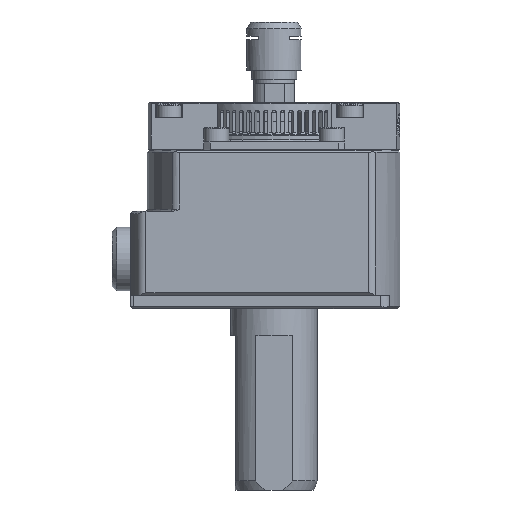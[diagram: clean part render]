
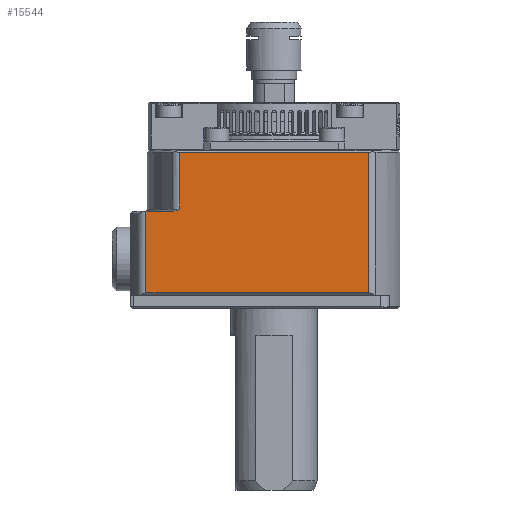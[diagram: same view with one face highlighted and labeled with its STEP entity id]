
A CAD part, left-side view. The second image highlights one B-rep face of the part: STEP entity #15544.
In plain terms, the highlighted planar face has unit normal (-1, 0, 0).
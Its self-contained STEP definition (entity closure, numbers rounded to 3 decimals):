
#181 = CARTESIAN_POINT ( 'NONE',  ( -17.5, 21.639, 21.652 ) ) ;
#241 = EDGE_CURVE ( 'NONE', #33682, #25629, #23568, .T. ) ;
#571 = CARTESIAN_POINT ( 'NONE',  ( -17.5, 21.381, 21.757 ) ) ;
#1149 = LINE ( 'NONE', #10102, #13655 ) ;
#1262 = CARTESIAN_POINT ( 'NONE',  ( -17.5, 20.875, 22. ) ) ;
#2270 = ORIENTED_EDGE ( 'NONE', *, *, #241, .F. ) ;
#2333 = DIRECTION ( 'NONE',  ( 0., 0., -1. ) ) ;
#2729 = LINE ( 'NONE', #6011, #3950 ) ;
#3503 = CARTESIAN_POINT ( 'NONE',  ( -17.5, 21.35, 21.771 ) ) ;
#3540 = PLANE ( 'NONE',  #28565 ) ;
#3950 = VECTOR ( 'NONE', #14581, 1000. ) ;
#6011 = CARTESIAN_POINT ( 'NONE',  ( -17.5, 13.875, 21.5 ) ) ;
#6403 = CARTESIAN_POINT ( 'NONE',  ( -17.5, 21.612, 21.662 ) ) ;
#6593 = CARTESIAN_POINT ( 'NONE',  ( -17.5, 21.316, 21.786 ) ) ;
#7973 = CARTESIAN_POINT ( 'NONE',  ( -17.5, -20.875, 35. ) ) ;
#8942 = VECTOR ( 'NONE', #18116, 1000. ) ;
#8975 = EDGE_CURVE ( 'NONE', #27154, #11685, #25695, .T. ) ;
#9093 = ORIENTED_EDGE ( 'NONE', *, *, #34186, .T. ) ;
#9507 = CARTESIAN_POINT ( 'NONE',  ( -17.5, 21.944, 21.556 ) ) ;
#9697 = CARTESIAN_POINT ( 'NONE',  ( -17.5, 20.875, 22. ) ) ;
#10102 = CARTESIAN_POINT ( 'NONE',  ( -17.5, 13.875, 3.5 ) ) ;
#10373 = CARTESIAN_POINT ( 'NONE',  ( -17.5, 28.281, 21.5 ) ) ;
#10943 = CARTESIAN_POINT ( 'NONE',  ( -17.5, 20.875, 34.5 ) ) ;
#11685 = VERTEX_POINT ( 'NONE', #10373 ) ;
#12050 = CARTESIAN_POINT ( 'NONE',  ( -17.5, 21.622, 21.658 ) ) ;
#12101 = ORIENTED_EDGE ( 'NONE', *, *, #27121, .F. ) ;
#13655 = VECTOR ( 'NONE', #22009, 1000. ) ;
#13834 = CARTESIAN_POINT ( 'NONE',  ( -17.5, 22.375, 21.5 ) ) ;
#14581 = DIRECTION ( 'NONE',  ( 0., 1., 0. ) ) ;
#14780 = CARTESIAN_POINT ( 'NONE',  ( -17.5, 21.877, 21.574 ) ) ;
#15366 = CARTESIAN_POINT ( 'NONE',  ( -17.5, 21.342, 21.774 ) ) ;
#15380 = CARTESIAN_POINT ( 'NONE',  ( -17.5, 20.875, 35. ) ) ;
#15408 = DIRECTION ( 'NONE',  ( 0., -1., 0. ) ) ;
#15482 = ORIENTED_EDGE ( 'NONE', *, *, #23975, .F. ) ;
#15544 = ADVANCED_FACE ( 'NONE', ( #23601 ), #3540, .F. ) ;
#15562 = CARTESIAN_POINT ( 'NONE',  ( -17.5, 21.402, 21.748 ) ) ;
#16827 = ORIENTED_EDGE ( 'NONE', *, *, #8975, .F. ) ;
#17597 = VERTEX_POINT ( 'NONE', #24482 ) ;
#18116 = DIRECTION ( 'NONE',  ( 0., -1., 0. ) ) ;
#18304 = CARTESIAN_POINT ( 'NONE',  ( -17.5, 22.261, 21.5 ) ) ;
#18347 = DIRECTION ( 'NONE',  ( 1., 0., 0. ) ) ;
#18363 = EDGE_CURVE ( 'NONE', #17597, #27154, #1149, .T. ) ;
#18476 = CARTESIAN_POINT ( 'NONE',  ( -17.5, -20.875, 34.5 ) ) ;
#18499 = CARTESIAN_POINT ( 'NONE',  ( -17.5, 21.287, 21.799 ) ) ;
#19103 = ORIENTED_EDGE ( 'NONE', *, *, #18363, .F. ) ;
#19180 = VECTOR ( 'NONE', #2333, 1000. ) ;
#21034 = CARTESIAN_POINT ( 'NONE',  ( -17.5, 21.033, 21.921 ) ) ;
#21047 = DIRECTION ( 'NONE',  ( 0., 0., 1. ) ) ;
#21072 = CARTESIAN_POINT ( 'NONE',  ( -17.5, 27.75, 35. ) ) ;
#21418 = CARTESIAN_POINT ( 'NONE',  ( -17.5, 21.742, 21.616 ) ) ;
#22009 = DIRECTION ( 'NONE',  ( 0., 1., 0. ) ) ;
#23568 = LINE ( 'NONE', #32765, #8942 ) ;
#23601 = FACE_OUTER_BOUND ( 'NONE', #29124, .T. ) ;
#23933 = VERTEX_POINT ( 'NONE', #13834 ) ;
#23955 = CARTESIAN_POINT ( 'NONE',  ( -17.5, 21.545, 21.687 ) ) ;
#23975 = EDGE_CURVE ( 'NONE', #31104, #33682, #36075, .T. ) ;
#24482 = CARTESIAN_POINT ( 'NONE',  ( -17.5, -20.875, 3.5 ) ) ;
#25333 = VECTOR ( 'NONE', #21047, 1000. ) ;
#25504 = DIRECTION ( 'NONE',  ( 0., 0., 1. ) ) ;
#25629 = VERTEX_POINT ( 'NONE', #18476 ) ;
#25695 = LINE ( 'NONE', #37615, #34591 ) ;
#26690 = CARTESIAN_POINT ( 'NONE',  ( -17.5, 21.665, 21.642 ) ) ;
#26884 = CARTESIAN_POINT ( 'NONE',  ( -17.5, 22.375, 21.5 ) ) ;
#27065 = ORIENTED_EDGE ( 'NONE', *, *, #28265, .F. ) ;
#27121 = EDGE_CURVE ( 'NONE', #25629, #17597, #38398, .T. ) ;
#27154 = VERTEX_POINT ( 'NONE', #35284 ) ;
#27467 = CARTESIAN_POINT ( 'NONE',  ( -17.5, 21.352, 21.77 ) ) ;
#28265 = EDGE_CURVE ( 'NONE', #23933, #31104, #37497, .T. ) ;
#28565 = AXIS2_PLACEMENT_3D ( 'NONE', #21072, #18347, #15408 ) ;
#29124 = EDGE_LOOP ( 'NONE', ( #16827, #19103, #12101, #2270, #15482, #27065, #9093 ) ) ;
#30217 = CARTESIAN_POINT ( 'NONE',  ( -17.5, 21.483, 21.713 ) ) ;
#30403 = CARTESIAN_POINT ( 'NONE',  ( -17.5, 21.161, 21.857 ) ) ;
#31104 = VERTEX_POINT ( 'NONE', #1262 ) ;
#32765 = CARTESIAN_POINT ( 'NONE',  ( -17.5, 13.875, 34.5 ) ) ;
#33329 = CARTESIAN_POINT ( 'NONE',  ( -17.5, 22.138, 21.514 ) ) ;
#33510 = CARTESIAN_POINT ( 'NONE',  ( -17.5, 21.361, 21.766 ) ) ;
#33682 = VERTEX_POINT ( 'NONE', #10943 ) ;
#34186 = EDGE_CURVE ( 'NONE', #23933, #11685, #2729, .T. ) ;
#34591 = VECTOR ( 'NONE', #25504, 1000. ) ;
#35284 = CARTESIAN_POINT ( 'NONE',  ( -17.5, 28.281, 3.5 ) ) ;
#35672 = CARTESIAN_POINT ( 'NONE',  ( -17.5, 21.691, 21.633 ) ) ;
#36075 = LINE ( 'NONE', #15380, #25333 ) ;
#36451 = CARTESIAN_POINT ( 'NONE',  ( -17.5, 21.776, 21.604 ) ) ;
#37497 = B_SPLINE_CURVE_WITH_KNOTS ( 'NONE', 3,
 ( #26884, #18304, #33329, #9507, #14780, #36451, #21418, #35672, #26690, #181, #12050, #6403, #23955, #30217, #15562, #571, #33510, #27467, #3503, #15366, #6593, #18499, #30403, #21034, #9697 ),
 .UNSPECIFIED., .F., .F.,
 ( 4, 2, 2, 2, 1, 2, 2, 2, 1, 2, 2, 1, 2, 4 ),
 ( 0., 0.25, 0.375, 0.438, 0.469, 0.484, 0.5, 0.625, 0.656, 0.664, 0.672, 0.688, 0.75, 1. ),
 .UNSPECIFIED. ) ;
#37615 = CARTESIAN_POINT ( 'NONE',  ( -17.5, 28.281, 35. ) ) ;
#38398 = LINE ( 'NONE', #7973, #19180 ) ;
